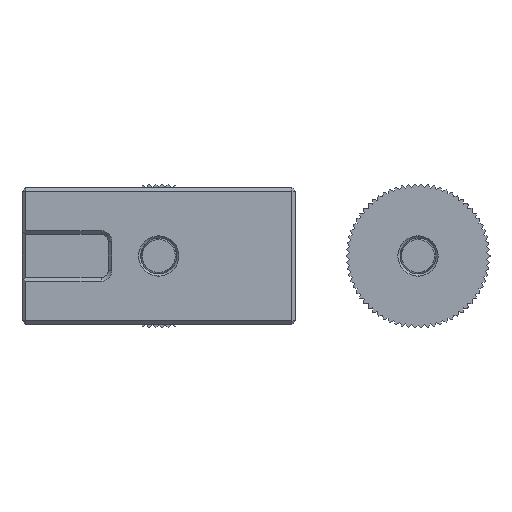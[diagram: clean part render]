
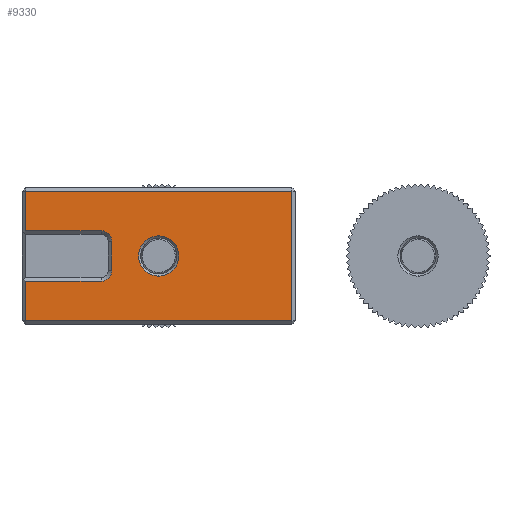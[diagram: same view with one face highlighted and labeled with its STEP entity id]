
A CAD part, front view. The second image highlights one B-rep face of the part: STEP entity #9330.
In plain terms, the highlighted planar face has unit normal (0, -1, 0).
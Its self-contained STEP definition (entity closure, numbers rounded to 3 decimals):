
#111 = FACE_OUTER_BOUND ( 'NONE', #3927, .T. ) ;
#352 = CARTESIAN_POINT ( 'NONE',  ( 0., 0., 0. ) ) ;
#676 = DIRECTION ( 'NONE',  ( 0., 0., 1. ) ) ;
#728 = DIRECTION ( 'NONE',  ( 0., 0., 1. ) ) ;
#780 = VERTEX_POINT ( 'NONE', #10116 ) ;
#1113 = VERTEX_POINT ( 'NONE', #11743 ) ;
#2249 = LINE ( 'NONE', #9833, #2444 ) ;
#2444 = VECTOR ( 'NONE', #5388, 1000. ) ;
#2702 = DIRECTION ( 'NONE',  ( 0., 1., 0. ) ) ;
#3017 = DIRECTION ( 'NONE',  ( 0., 0., 1. ) ) ;
#3677 = AXIS2_PLACEMENT_3D ( 'NONE', #352, #20774, #18295 ) ;
#3905 = EDGE_CURVE ( 'NONE', #24339, #27383, #4683, .T. ) ;
#3927 = EDGE_LOOP ( 'NONE', ( #18354, #8616, #10190, #19438, #15807, #30272, #7708, #9823, #21052, #22514 ) ) ;
#4325 = DIRECTION ( 'NONE',  ( 0., 0., -1. ) ) ;
#4683 = CIRCLE ( 'NONE', #13128, 1.5 ) ;
#4838 = AXIS2_PLACEMENT_3D ( 'NONE', #22958, #2702, #3017 ) ;
#4905 = CARTESIAN_POINT ( 'NONE',  ( 0., 0., 3.5 ) ) ;
#5235 = DIRECTION ( 'NONE',  ( 1., 0., 0. ) ) ;
#5388 = DIRECTION ( 'NONE',  ( 1., 0., 0. ) ) ;
#5501 = CARTESIAN_POINT ( 'NONE',  ( 0., 0., -2.8 ) ) ;
#5624 = CARTESIAN_POINT ( 'NONE',  ( -8., 0., -2. ) ) ;
#5730 = EDGE_CURVE ( 'NONE', #20132, #19683, #31545, .T. ) ;
#5926 = CIRCLE ( 'NONE', #4838, 2.8 ) ;
#6312 = VERTEX_POINT ( 'NONE', #14268 ) ;
#7371 = FACE_BOUND ( 'NONE', #18889, .T. ) ;
#7708 = ORIENTED_EDGE ( 'NONE', *, *, #17859, .T. ) ;
#7874 = LINE ( 'NONE', #4905, #14637 ) ;
#8616 = ORIENTED_EDGE ( 'NONE', *, *, #20704, .T. ) ;
#9330 = ADVANCED_FACE ( 'NONE', ( #111, #7371 ), #27289, .F. ) ;
#9387 = ORIENTED_EDGE ( 'NONE', *, *, #5730, .T. ) ;
#9427 = LINE ( 'NONE', #27210, #13767 ) ;
#9823 = ORIENTED_EDGE ( 'NONE', *, *, #13824, .T. ) ;
#9833 = CARTESIAN_POINT ( 'NONE',  ( 0., 0., -9. ) ) ;
#9921 = EDGE_CURVE ( 'NONE', #25449, #15269, #26415, .T. ) ;
#10116 = CARTESIAN_POINT ( 'NONE',  ( -18.5, 0., 9. ) ) ;
#10190 = ORIENTED_EDGE ( 'NONE', *, *, #9921, .T. ) ;
#10462 = CARTESIAN_POINT ( 'NONE',  ( 18.5, 0., 0. ) ) ;
#10469 = CARTESIAN_POINT ( 'NONE',  ( -8., 0., 3.5 ) ) ;
#10490 = EDGE_CURVE ( 'NONE', #15269, #32121, #2249, .T. ) ;
#11537 = DIRECTION ( 'NONE',  ( -1., 0., 0. ) ) ;
#11743 = CARTESIAN_POINT ( 'NONE',  ( -18.5, 0., 3.5 ) ) ;
#12874 = DIRECTION ( 'NONE',  ( 0., 1., 0. ) ) ;
#13128 = AXIS2_PLACEMENT_3D ( 'NONE', #5624, #12874, #676 ) ;
#13167 = CARTESIAN_POINT ( 'NONE',  ( 0., 0., 2.8 ) ) ;
#13767 = VECTOR ( 'NONE', #21787, 1000. ) ;
#13824 = EDGE_CURVE ( 'NONE', #1113, #15389, #7874, .T. ) ;
#14001 = EDGE_CURVE ( 'NONE', #32559, #780, #18714, .T. ) ;
#14268 = CARTESIAN_POINT ( 'NONE',  ( -6.5, 0., 2. ) ) ;
#14318 = EDGE_CURVE ( 'NONE', #32121, #32559, #18183, .T. ) ;
#14334 = CARTESIAN_POINT ( 'NONE',  ( 0., 0., -3.5 ) ) ;
#14432 = CARTESIAN_POINT ( 'NONE',  ( -18.5, 0., -9. ) ) ;
#14437 = CARTESIAN_POINT ( 'NONE',  ( 18.5, 0., -9. ) ) ;
#14637 = VECTOR ( 'NONE', #5235, 1000. ) ;
#14664 = VECTOR ( 'NONE', #19137, 1000. ) ;
#15104 = ORIENTED_EDGE ( 'NONE', *, *, #25319, .T. ) ;
#15269 = VERTEX_POINT ( 'NONE', #14432 ) ;
#15389 = VERTEX_POINT ( 'NONE', #10469 ) ;
#15807 = ORIENTED_EDGE ( 'NONE', *, *, #14318, .T. ) ;
#16248 = CARTESIAN_POINT ( 'NONE',  ( 0., 0., 9. ) ) ;
#16386 = VECTOR ( 'NONE', #11537, 1000. ) ;
#16516 = CARTESIAN_POINT ( 'NONE',  ( -18.5, 0., 0. ) ) ;
#17397 = DIRECTION ( 'NONE',  ( 0., 1., 0. ) ) ;
#17859 = EDGE_CURVE ( 'NONE', #780, #1113, #26725, .T. ) ;
#18183 = LINE ( 'NONE', #10462, #24658 ) ;
#18295 = DIRECTION ( 'NONE',  ( 0., 0., 1. ) ) ;
#18354 = ORIENTED_EDGE ( 'NONE', *, *, #3905, .T. ) ;
#18714 = LINE ( 'NONE', #16248, #31990 ) ;
#18889 = EDGE_LOOP ( 'NONE', ( #9387, #15104 ) ) ;
#19137 = DIRECTION ( 'NONE',  ( 0., 0., -1. ) ) ;
#19186 = CARTESIAN_POINT ( 'NONE',  ( -8., 0., -3.5 ) ) ;
#19438 = ORIENTED_EDGE ( 'NONE', *, *, #10490, .T. ) ;
#19610 = EDGE_CURVE ( 'NONE', #15389, #6312, #28969, .T. ) ;
#19683 = VERTEX_POINT ( 'NONE', #13167 ) ;
#19734 = CARTESIAN_POINT ( 'NONE',  ( -6.5, 0., -2. ) ) ;
#20132 = VERTEX_POINT ( 'NONE', #5501 ) ;
#20301 = EDGE_CURVE ( 'NONE', #6312, #24339, #9427, .T. ) ;
#20390 = VECTOR ( 'NONE', #4325, 1000. ) ;
#20704 = EDGE_CURVE ( 'NONE', #27383, #25449, #26857, .T. ) ;
#20774 = DIRECTION ( 'NONE',  ( 0., 1., 0. ) ) ;
#21052 = ORIENTED_EDGE ( 'NONE', *, *, #19610, .T. ) ;
#21205 = DIRECTION ( 'NONE',  ( -1., 0., 0. ) ) ;
#21787 = DIRECTION ( 'NONE',  ( 0., 0., -1. ) ) ;
#22514 = ORIENTED_EDGE ( 'NONE', *, *, #20301, .T. ) ;
#22958 = CARTESIAN_POINT ( 'NONE',  ( 0., 0., 0. ) ) ;
#23171 = AXIS2_PLACEMENT_3D ( 'NONE', #25999, #27991, #28308 ) ;
#23817 = CARTESIAN_POINT ( 'NONE',  ( 18.5, 0., 9. ) ) ;
#23932 = CARTESIAN_POINT ( 'NONE',  ( -18.5, 0., 0. ) ) ;
#24339 = VERTEX_POINT ( 'NONE', #19734 ) ;
#24658 = VECTOR ( 'NONE', #728, 1000. ) ;
#25142 = CARTESIAN_POINT ( 'NONE',  ( 0., 0., 0. ) ) ;
#25319 = EDGE_CURVE ( 'NONE', #19683, #20132, #5926, .T. ) ;
#25449 = VERTEX_POINT ( 'NONE', #25925 ) ;
#25925 = CARTESIAN_POINT ( 'NONE',  ( -18.5, 0., -3.5 ) ) ;
#25999 = CARTESIAN_POINT ( 'NONE',  ( -8., 0., 2. ) ) ;
#26415 = LINE ( 'NONE', #23932, #20390 ) ;
#26725 = LINE ( 'NONE', #16516, #14664 ) ;
#26857 = LINE ( 'NONE', #14334, #16386 ) ;
#27210 = CARTESIAN_POINT ( 'NONE',  ( -6.5, 0., -2. ) ) ;
#27289 = PLANE ( 'NONE',  #28777 ) ;
#27383 = VERTEX_POINT ( 'NONE', #19186 ) ;
#27458 = DIRECTION ( 'NONE',  ( 0., 0., 1. ) ) ;
#27991 = DIRECTION ( 'NONE',  ( 0., 1., 0. ) ) ;
#28308 = DIRECTION ( 'NONE',  ( 0., 0., 1. ) ) ;
#28777 = AXIS2_PLACEMENT_3D ( 'NONE', #25142, #17397, #27458 ) ;
#28969 = CIRCLE ( 'NONE', #23171, 1.5 ) ;
#30272 = ORIENTED_EDGE ( 'NONE', *, *, #14001, .T. ) ;
#31545 = CIRCLE ( 'NONE', #3677, 2.8 ) ;
#31990 = VECTOR ( 'NONE', #21205, 1000. ) ;
#32121 = VERTEX_POINT ( 'NONE', #14437 ) ;
#32559 = VERTEX_POINT ( 'NONE', #23817 ) ;
